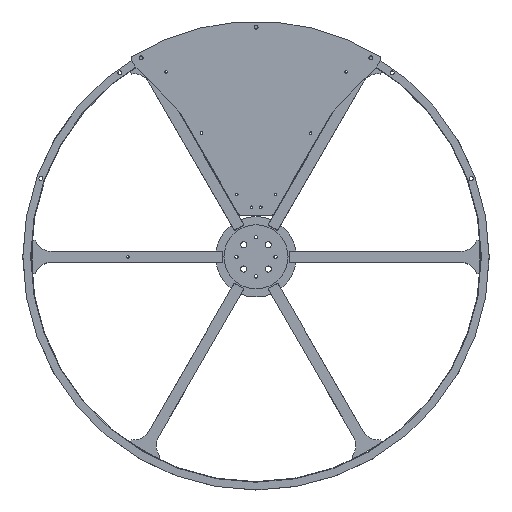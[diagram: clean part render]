
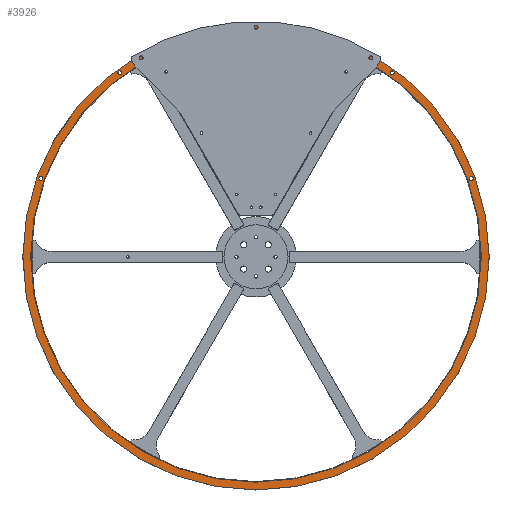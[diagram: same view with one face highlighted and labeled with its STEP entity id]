
A CAD part, top view. The second image highlights one B-rep face of the part: STEP entity #3926.
In plain terms, the highlighted planar face has unit normal (0, 0, 1) as drawn and (0, -1, 0) by its records, which use the part's own axes.
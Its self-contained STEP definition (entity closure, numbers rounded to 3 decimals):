
#101 = EDGE_CURVE ( 'NONE', #7379, #12356, #12765, .T. ) ;
#467 = EDGE_CURVE ( 'NONE', #3813, #7079, #11519, .T. ) ;
#583 = AXIS2_PLACEMENT_3D ( 'NONE', #4714, #8796, #12870 ) ;
#798 = VERTEX_POINT ( 'NONE', #7489 ) ;
#818 = EDGE_CURVE ( 'NONE', #7349, #798, #3603, .T. ) ;
#872 = CARTESIAN_POINT ( 'NONE',  ( 406.233, 0., -75.13 ) ) ;
#901 = DIRECTION ( 'NONE',  ( 0., 0., -1. ) ) ;
#990 = ORIENTED_EDGE ( 'NONE', *, *, #101, .F. ) ;
#1037 = DIRECTION ( 'NONE',  ( 0., -1., 0. ) ) ;
#1044 = DIRECTION ( 'NONE',  ( 0., 1., 0. ) ) ;
#1080 = DIRECTION ( 'NONE',  ( 0., -1., 0. ) ) ;
#1305 = DIRECTION ( 'NONE',  ( 0., 0., -1. ) ) ;
#1322 = CARTESIAN_POINT ( 'NONE',  ( 0., 0., 420. ) ) ;
#1410 = EDGE_CURVE ( 'NONE', #798, #7349, #5377, .T. ) ;
#1599 = DIRECTION ( 'NONE',  ( 0., -1., 0. ) ) ;
#1732 = EDGE_CURVE ( 'NONE', #12356, #7379, #2814, .T. ) ;
#1847 = CARTESIAN_POINT ( 'NONE',  ( 0., 0., 0. ) ) ;
#1938 = ORIENTED_EDGE ( 'NONE', *, *, #1732, .F. ) ;
#2001 = FACE_BOUND ( 'NONE', #8514, .T. ) ;
#2063 = CIRCLE ( 'NONE', #8908, 3.5 ) ;
#2500 = EDGE_CURVE ( 'NONE', #7079, #3813, #2063, .T. ) ;
#2814 = CIRCLE ( 'NONE', #10298, 3.5 ) ;
#2902 = DIRECTION ( 'NONE',  ( 0., 0., -1. ) ) ;
#3008 = FACE_BOUND ( 'NONE', #4885, .T. ) ;
#3307 = DIRECTION ( 'NONE',  ( 0., 0., -1. ) ) ;
#3548 = DIRECTION ( 'NONE',  ( 0., 0., -1. ) ) ;
#3568 = DIRECTION ( 'NONE',  ( 0., 0., 1. ) ) ;
#3603 = CIRCLE ( 'NONE', #6813, 3.5 ) ;
#3813 = VERTEX_POINT ( 'NONE', #5761 ) ;
#3926 = ADVANCED_FACE ( 'NONE', ( #12111, #3008, #5208, #7165, #11178, #2001 ), #11250, .F. ) ;
#4007 = CARTESIAN_POINT ( 'NONE',  ( 0., 0., 0. ) ) ;
#4354 = AXIS2_PLACEMENT_3D ( 'NONE', #11677, #5708, #3568 ) ;
#4358 = ORIENTED_EDGE ( 'NONE', *, *, #5322, .T. ) ;
#4448 = CARTESIAN_POINT ( 'NONE',  ( -265.15, 0., 315.993 ) ) ;
#4492 = ORIENTED_EDGE ( 'NONE', *, *, #9526, .T. ) ;
#4714 = CARTESIAN_POINT ( 'NONE',  ( -265.15, 0., 315.993 ) ) ;
#4743 = VERTEX_POINT ( 'NONE', #7650 ) ;
#4885 = EDGE_LOOP ( 'NONE', ( #1938, #990 ) ) ;
#5091 = CARTESIAN_POINT ( 'NONE',  ( 0., 0., 0. ) ) ;
#5107 = VERTEX_POINT ( 'NONE', #1322 ) ;
#5113 = CIRCLE ( 'NONE', #11316, 406. ) ;
#5146 = CARTESIAN_POINT ( 'NONE',  ( 378.287, 0., 164.484 ) ) ;
#5208 = FACE_BOUND ( 'NONE', #7703, .T. ) ;
#5318 = EDGE_CURVE ( 'NONE', #4743, #12374, #6395, .T. ) ;
#5322 = EDGE_CURVE ( 'NONE', #6436, #8292, #5113, .T. ) ;
#5377 = CIRCLE ( 'NONE', #12426, 3.5 ) ;
#5414 = AXIS2_PLACEMENT_3D ( 'NONE', #4007, #1044, #12305 ) ;
#5708 = DIRECTION ( 'NONE',  ( 0., 1., 0. ) ) ;
#5761 = CARTESIAN_POINT ( 'NONE',  ( -265.15, 0., 312.493 ) ) ;
#5844 = CARTESIAN_POINT ( 'NONE',  ( 406.233, 0., -71.63 ) ) ;
#6009 = EDGE_LOOP ( 'NONE', ( #12233, #8938 ) ) ;
#6348 = DIRECTION ( 'NONE',  ( 0., -1., 0. ) ) ;
#6395 = CIRCLE ( 'NONE', #11949, 3.5 ) ;
#6436 = VERTEX_POINT ( 'NONE', #6760 ) ;
#6629 = EDGE_LOOP ( 'NONE', ( #4358, #4492 ) ) ;
#6760 = CARTESIAN_POINT ( 'NONE',  ( 0., 0., -406. ) ) ;
#6764 = CARTESIAN_POINT ( 'NONE',  ( 0., 0., -420. ) ) ;
#6813 = AXIS2_PLACEMENT_3D ( 'NONE', #11429, #6348, #1305 ) ;
#6886 = DIRECTION ( 'NONE',  ( 0., 1., 0. ) ) ;
#7010 = CARTESIAN_POINT ( 'NONE',  ( 0., 0., 406. ) ) ;
#7079 = VERTEX_POINT ( 'NONE', #7809 ) ;
#7165 = FACE_BOUND ( 'NONE', #6009, .T. ) ;
#7349 = VERTEX_POINT ( 'NONE', #872 ) ;
#7379 = VERTEX_POINT ( 'NONE', #12074 ) ;
#7489 = CARTESIAN_POINT ( 'NONE',  ( 406.233, 0., -68.13 ) ) ;
#7650 = CARTESIAN_POINT ( 'NONE',  ( 378.287, 0., 160.984 ) ) ;
#7703 = EDGE_LOOP ( 'NONE', ( #7758, #8342 ) ) ;
#7758 = ORIENTED_EDGE ( 'NONE', *, *, #467, .F. ) ;
#7809 = CARTESIAN_POINT ( 'NONE',  ( -265.15, 0., 319.493 ) ) ;
#8019 = DIRECTION ( 'NONE',  ( 0., 1., 0. ) ) ;
#8221 = AXIS2_PLACEMENT_3D ( 'NONE', #1847, #6886, #10959 ) ;
#8292 = VERTEX_POINT ( 'NONE', #7010 ) ;
#8342 = ORIENTED_EDGE ( 'NONE', *, *, #2500, .F. ) ;
#8514 = EDGE_LOOP ( 'NONE', ( #11385, #12668 ) ) ;
#8601 = DIRECTION ( 'NONE',  ( 0., -1., 0. ) ) ;
#8629 = CARTESIAN_POINT ( 'NONE',  ( -46.696, 0., 409.848 ) ) ;
#8723 = CARTESIAN_POINT ( 'NONE',  ( 378.287, 0., 167.984 ) ) ;
#8796 = DIRECTION ( 'NONE',  ( 0., -1., 0. ) ) ;
#8908 = AXIS2_PLACEMENT_3D ( 'NONE', #4448, #8601, #12681 ) ;
#8925 = DIRECTION ( 'NONE',  ( 0., -1., 0. ) ) ;
#8938 = ORIENTED_EDGE ( 'NONE', *, *, #1410, .F. ) ;
#9165 = DIRECTION ( 'NONE',  ( 0., 1., 0. ) ) ;
#9218 = CARTESIAN_POINT ( 'NONE',  ( 0., 0., 0. ) ) ;
#9232 = DIRECTION ( 'NONE',  ( 0., 0., 1. ) ) ;
#9258 = CIRCLE ( 'NONE', #5414, 406. ) ;
#9291 = AXIS2_PLACEMENT_3D ( 'NONE', #10781, #1599, #9716 ) ;
#9335 = VERTEX_POINT ( 'NONE', #6764 ) ;
#9526 = EDGE_CURVE ( 'NONE', #8292, #6436, #9258, .T. ) ;
#9716 = DIRECTION ( 'NONE',  ( 0., 0., -1. ) ) ;
#9774 = DIRECTION ( 'NONE',  ( 0., -1., 0. ) ) ;
#10038 = EDGE_CURVE ( 'NONE', #9335, #5107, #10772, .T. ) ;
#10226 = DIRECTION ( 'NONE',  ( 0., 0., 1. ) ) ;
#10294 = ORIENTED_EDGE ( 'NONE', *, *, #10038, .F. ) ;
#10298 = AXIS2_PLACEMENT_3D ( 'NONE', #8629, #9774, #3548 ) ;
#10337 = CARTESIAN_POINT ( 'NONE',  ( -46.696, 0., 409.848 ) ) ;
#10577 = CIRCLE ( 'NONE', #8221, 420. ) ;
#10772 = CIRCLE ( 'NONE', #4354, 420. ) ;
#10781 = CARTESIAN_POINT ( 'NONE',  ( 378.287, 0., 164.484 ) ) ;
#10851 = AXIS2_PLACEMENT_3D ( 'NONE', #10337, #1080, #3307 ) ;
#10959 = DIRECTION ( 'NONE',  ( 0., 0., 1. ) ) ;
#10973 = EDGE_LOOP ( 'NONE', ( #10294, #13174 ) ) ;
#11053 = EDGE_CURVE ( 'NONE', #12374, #4743, #12716, .T. ) ;
#11178 = FACE_OUTER_BOUND ( 'NONE', #10973, .T. ) ;
#11250 = PLANE ( 'NONE',  #11920 ) ;
#11316 = AXIS2_PLACEMENT_3D ( 'NONE', #9218, #8019, #10226 ) ;
#11385 = ORIENTED_EDGE ( 'NONE', *, *, #5318, .F. ) ;
#11429 = CARTESIAN_POINT ( 'NONE',  ( 406.233, 0., -71.63 ) ) ;
#11519 = CIRCLE ( 'NONE', #583, 3.5 ) ;
#11634 = EDGE_CURVE ( 'NONE', #5107, #9335, #10577, .T. ) ;
#11677 = CARTESIAN_POINT ( 'NONE',  ( 0., 0., 0. ) ) ;
#11920 = AXIS2_PLACEMENT_3D ( 'NONE', #5091, #9165, #9232 ) ;
#11949 = AXIS2_PLACEMENT_3D ( 'NONE', #5146, #1037, #901 ) ;
#12074 = CARTESIAN_POINT ( 'NONE',  ( -46.696, 0., 413.348 ) ) ;
#12111 = FACE_BOUND ( 'NONE', #6629, .T. ) ;
#12233 = ORIENTED_EDGE ( 'NONE', *, *, #818, .F. ) ;
#12305 = DIRECTION ( 'NONE',  ( 0., 0., 1. ) ) ;
#12356 = VERTEX_POINT ( 'NONE', #12737 ) ;
#12374 = VERTEX_POINT ( 'NONE', #8723 ) ;
#12426 = AXIS2_PLACEMENT_3D ( 'NONE', #5844, #8925, #2902 ) ;
#12668 = ORIENTED_EDGE ( 'NONE', *, *, #11053, .F. ) ;
#12681 = DIRECTION ( 'NONE',  ( 0., 0., -1. ) ) ;
#12716 = CIRCLE ( 'NONE', #9291, 3.5 ) ;
#12737 = CARTESIAN_POINT ( 'NONE',  ( -46.696, 0., 406.348 ) ) ;
#12765 = CIRCLE ( 'NONE', #10851, 3.5 ) ;
#12870 = DIRECTION ( 'NONE',  ( 0., 0., -1. ) ) ;
#13174 = ORIENTED_EDGE ( 'NONE', *, *, #11634, .F. ) ;
